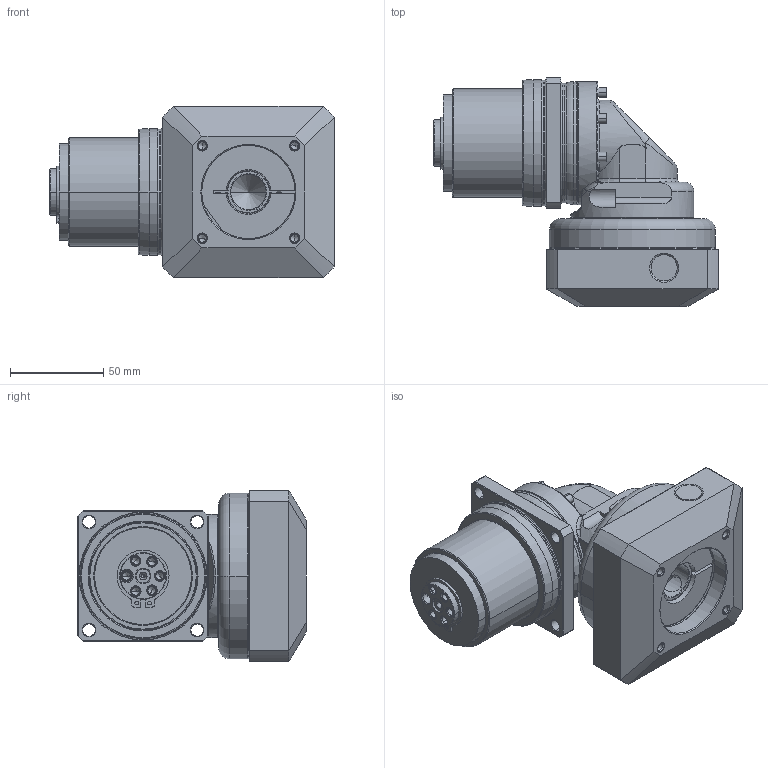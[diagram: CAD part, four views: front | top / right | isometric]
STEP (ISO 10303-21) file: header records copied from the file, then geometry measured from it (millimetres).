
FILE_DESCRIPTION((''),'2;1');
FILE_NAME('PLR070_1ST_19-P0411400101_ASM','2016-06-15T',('d00435'),(''),'PRO/ENGINEER BY PARAMETRIC TECHNOLOGY CORPORATION, 2008410','PRO/ENGINEER BY PARAMETRIC TECHNOLOGY CORPORATION, 2008410','');
FILE_SCHEMA(('CONFIG_CONTROL_DESIGN'));
Length unit declared in the file: millimetre
Products named in the file (10): P0272200001; P1353200001; P0366200001; 22802000015; P1017210001; P1350200301; P0411400101; P0503400008; P0713200301; PLR070_1ST_19-P0411400101_ASM
Assembly tree (9 placements, depth 2):
  PLR070_1ST_19-P0411400101_ASM
    P0272200001
    P1353200001
    P0366200001
    22802000015
    P1017210001
    P1350200301
    P0411400101
    P0503400008
    P0713200301
Bounding box: 152.5 x 122.5 x 92 mm (x, y, z)
Volume: 609434.6 mm3; surface area: 141592.8 mm2
Topology: 10 solids, 25 shells, 580 faces, 1342 edges, 806 vertices
Faces by surface type: cylinder 199, cone 158, plane 125, torus 68, bspline 30
Entity records: 19551 total; most frequent: CARTESIAN_POINT 6236, DIRECTION 2940, ORIENTED_EDGE 2552, EDGE_CURVE 1306, AXIS2_PLACEMENT_3D 1237, VERTEX_POINT 806, EDGE_LOOP 664, CIRCLE 660
